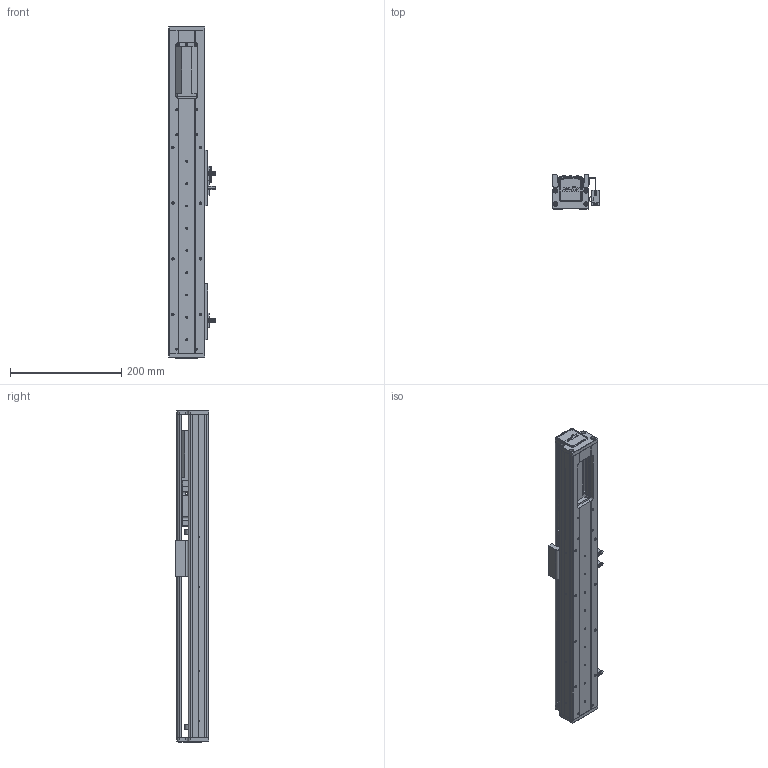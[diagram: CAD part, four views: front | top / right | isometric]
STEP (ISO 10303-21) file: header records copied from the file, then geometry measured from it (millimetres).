
FILE_DESCRIPTION (( 'STEP AP203' ), '1' );
FILE_NAME ('RY60-L1210-300-IK.SLDASM_250.step', '2021-02-22T05:12:00', ( '盈信电脑' ), ( '东莞市道滘镇水果街19号' ), 'SwSTEP 2.0', 'SolidWorks 2012', '' );
FILE_SCHEMA (( 'CONFIG_CONTROL_DESIGN' ));
Length unit declared in the file: millimetre
Products named in the file (12): RY60萇儂傷盓傅釱; 672嫖萇羲壽假蚾釱; RY60臏賑輸; RY60-300倰第裔啣-IK_250; RY60-300倰第菁釱-IK_250; RY60-L1210-300-IK.SLDASM_250; RY60-内置电机板100W（m3）; 侂狟100W; RY80俋离覜茼え; 滅袉蝶18-10; 覜茼ん672; RY60綴裔啣
Assembly tree (18 placements, depth 2):
  RY60-L1210-300-IK.SLDASM_250
    RY60-300倰第菁釱-IK_250
    RY60臏賑輸
    RY60-300倰第裔啣-IK_250
    RY60萇儂傷盓傅釱
    672嫖萇羲壽假蚾釱  x2
    RY60綴裔啣  x2
    覜茼ん672  x3
    RY80俋离覜茼え
    侂狟100W
    滅袉蝶18-10  x4
    RY60-内置电机板100W（m3）
Bounding box: 83.7 x 61 x 596 mm (x, y, z)
Volume: 828948 mm3; surface area: 394591.6 mm2
Topology: 18 solids, 18 shells, 1454 faces, 4047 edges, 2621 vertices
Faces by surface type: plane 785, cylinder 563, cone 90, bspline 16
Entity records: 38692 total; most frequent: CARTESIAN_POINT 9050, ORIENTED_EDGE 6006, DIRECTION 5748, EDGE_CURVE 3003, VERTEX_POINT 1967, AXIS2_PLACEMENT_3D 1939, LINE 1870, VECTOR 1870
